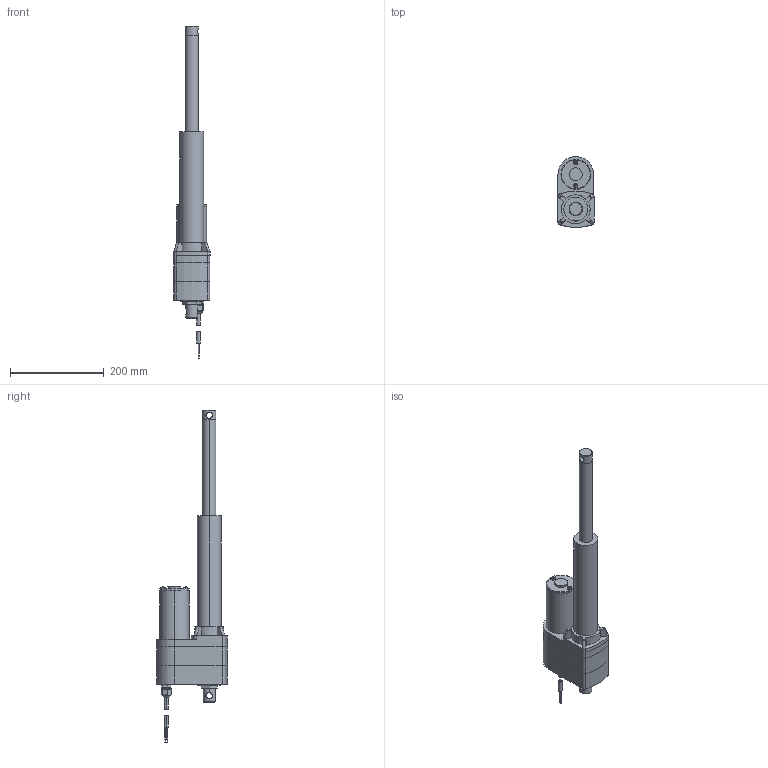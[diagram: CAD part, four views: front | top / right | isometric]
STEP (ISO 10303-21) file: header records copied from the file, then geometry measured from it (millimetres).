
FILE_DESCRIPTION (( 'STEP AP203' ), '1' );
FILE_NAME ('LA5_ACME_8x.step', '2021-02-24T15:21:02', ( '' ), ( '' ), 'SwSTEP 2.0', 'SolidWorks 2017', '' );
FILE_SCHEMA (( 'CONFIG_CONTROL_DESIGN' ));
Length unit declared in the file: millimetre
Products named in the file (1): LA5_ACME_8x
Bounding box: 77.22 x 151.29 x 709.38 mm (x, y, z)
Volume: 2143267.4 mm3; surface area: 217741.3 mm2
Topology: 14 solids, 14 shells, 315 faces, 680 edges, 422 vertices
Faces by surface type: plane 154, cylinder 101, cone 24, bspline 22, torus 10, sphere 4
Entity records: 10570 total; most frequent: CARTESIAN_POINT 3606, DIRECTION 1477, ORIENTED_EDGE 1360, EDGE_CURVE 680, AXIS2_PLACEMENT_3D 573, VERTEX_POINT 422, EDGE_LOOP 352, VECTOR 331
